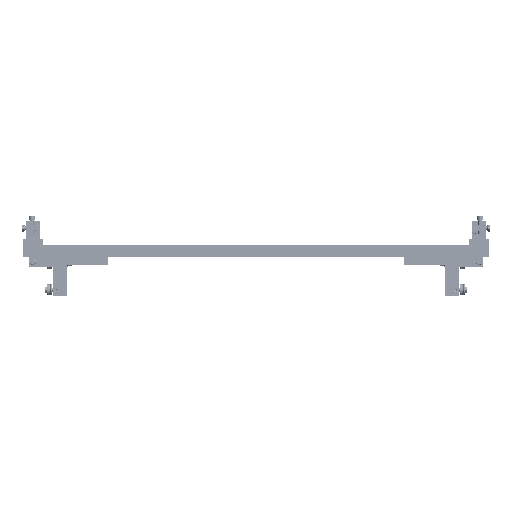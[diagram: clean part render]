
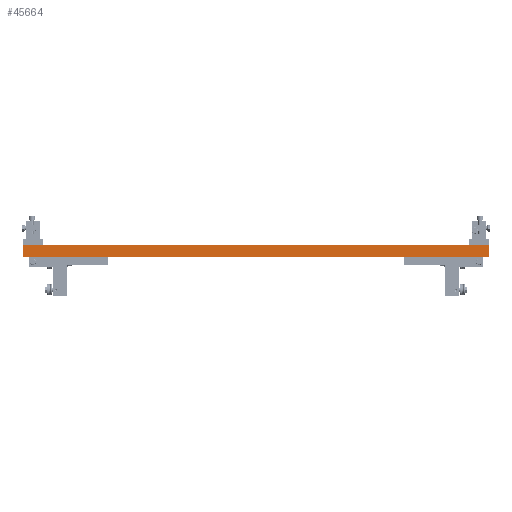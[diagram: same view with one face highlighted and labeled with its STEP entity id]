
A CAD part, front view. The second image highlights one B-rep face of the part: STEP entity #45664.
In plain terms, the highlighted planar face has unit normal (0, -1, 0).
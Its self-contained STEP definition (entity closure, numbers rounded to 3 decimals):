
#38368=FACE_OUTER_BOUND('',#68380,.T.);
#45664=ADVANCED_FACE('',(#38368),#52014,.F.);
#52014=PLANE('',#133157);
#54342=LINE('',#180175,#59218);
#54345=LINE('',#180181,#59221);
#54348=LINE('',#180275,#59224);
#54351=LINE('',#180280,#59227);
#59218=VECTOR('',#147727,1.);
#59221=VECTOR('',#147732,1.);
#59224=VECTOR('',#147825,1.);
#59227=VECTOR('',#147830,1.);
#68380=EDGE_LOOP('',(#77500,#77501,#77502,#77503));
#77500=ORIENTED_EDGE('',*,*,#112584,.F.);
#77501=ORIENTED_EDGE('',*,*,#112637,.F.);
#77502=ORIENTED_EDGE('',*,*,#112634,.F.);
#77503=ORIENTED_EDGE('',*,*,#112587,.F.);
#103212=VERTEX_POINT('',#180174);
#103213=VERTEX_POINT('',#180176);
#103215=VERTEX_POINT('',#180182);
#103261=VERTEX_POINT('',#180276);
#112584=EDGE_CURVE('',#103212,#103213,#54342,.T.);
#112587=EDGE_CURVE('',#103213,#103215,#54345,.T.);
#112634=EDGE_CURVE('',#103215,#103261,#54348,.T.);
#112637=EDGE_CURVE('',#103261,#103212,#54351,.T.);
#133157=AXIS2_PLACEMENT_3D('',#180282,#147833,#147834);
#147727=DIRECTION('',(1.,0.,0.));
#147732=DIRECTION('',(0.,0.,-1.));
#147825=DIRECTION('',(-1.,0.,0.));
#147830=DIRECTION('',(0.,0.,1.));
#147833=DIRECTION('',(0.,1.,0.));
#147834=DIRECTION('',(1.,0.,0.));
#180174=CARTESIAN_POINT('',(-352.,-1149.5,-1897.9));
#180175=CARTESIAN_POINT('',(-352.,-1149.5,-1897.9));
#180176=CARTESIAN_POINT('',(615.,-1149.5,-1897.9));
#180181=CARTESIAN_POINT('',(615.,-1149.5,-1897.9));
#180182=CARTESIAN_POINT('',(615.,-1149.5,-1922.9));
#180275=CARTESIAN_POINT('',(615.,-1149.5,-1922.9));
#180276=CARTESIAN_POINT('',(-352.,-1149.5,-1922.9));
#180280=CARTESIAN_POINT('',(-352.,-1149.5,-1922.9));
#180282=CARTESIAN_POINT('',(131.5,-1149.5,-1910.4));
